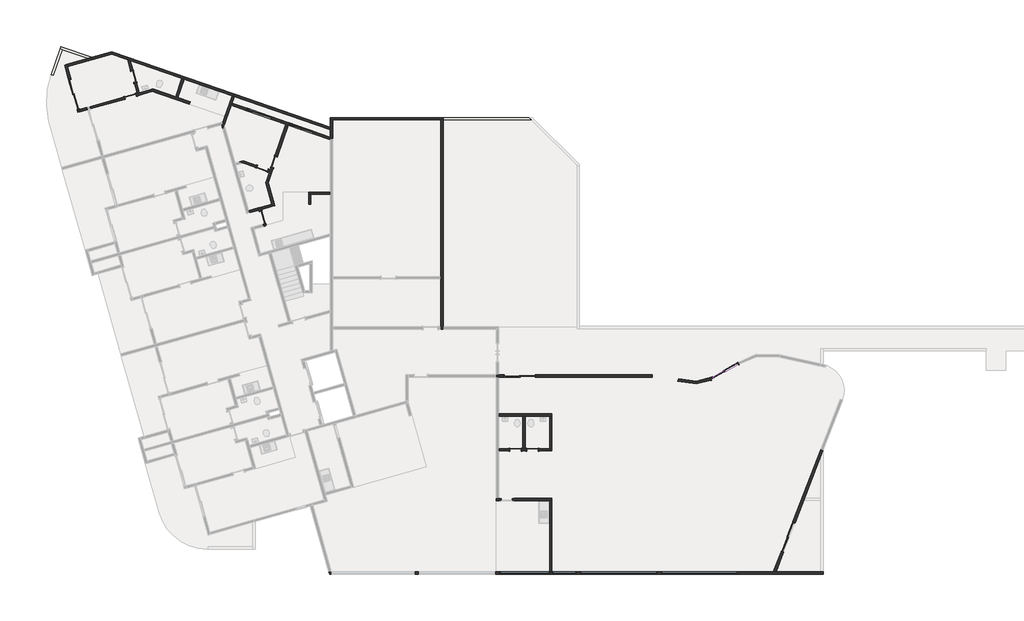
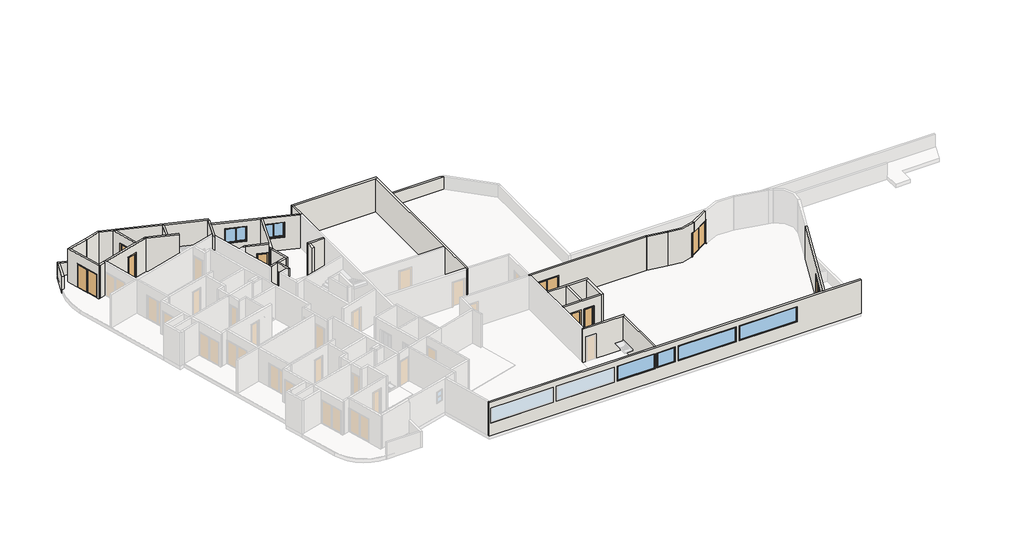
# One storey, part 3 of 7: 38 walls, 11 doors, 6 windows.
"""IFC4 building model written with IfcOpenShell, lengths in millimetres."""

from ifc_helpers import new_model, si_unit, point, frame, frame_2d, origin, place, context, project, spatial, polyline, circle_curve, trimmed, segment, composite_curve, outline, extrude, faceted_brep, transform, mapped, element, save
from ifc_brep_helpers import plane_surface, cylinder_surface, revolved_surface, advanced_brep
from components import p2_80cm_9d4be4ef, p3_70cm_ef4d15e3, p3_70cm_0a698c7c, p4_correr_200cm_eaaa0877, jx_160cm_e9e36a0c, m_fixo1_jf_1_50m_d319f19e, m_fixo1_jf_3_10m_b823a977, m_fixo1_jf_4_75m_a83b1cd6

model = new_model("IFC4")

# Units and contexts
model_context = context("Model", 3, world=origin())
ifc_project = project(units=[si_unit("LENGTHUNIT", "METRE", prefix="MILLI")], contexts=[model_context])

# Site, building, storey
site = spatial("IfcSite", under=ifc_project)
building = spatial("IfcBuilding", under=site)
storey = spatial("IfcBuildingStorey", under=building, Name="Térreo", Elevation=50750.0)

# Doors
placement = place(None, origin())
p2_80cm_shape = p2_80cm_9d4be4ef(model_context)
element("IfcDoor", 1, ObjectType="M_Folha única1 : P2 - 80CM", at=placement, inside=storey, context=model_context, shape_type="MappedRepresentation", body=[
    mapped(p2_80cm_shape, transform((-79349.4097406, 25479.1041247, 50750.0), x_axis=(-0.27176796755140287, 0.962362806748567, 0.0), y_axis=(-0.962362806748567, -0.27176796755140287, 0.0), z_axis=(0.0, 0.0, 1.0))),
])
p3_70cm_shape = p3_70cm_ef4d15e3(model_context)
element("IfcDoor", 2, ObjectType="M_Folha única1 : P3 - 70CM", at=placement, inside=storey, context=model_context, shape_type="MappedRepresentation", body=[
    mapped(p3_70cm_shape, transform((-87513.806232, 32980.5300491, 50750.0), x_axis=(0.9623628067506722, 0.2717679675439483, 0.0), y_axis=(-0.2717679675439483, 0.9623628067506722, 0.0), z_axis=(0.0, 0.0, 1.0))),
])
element("IfcDoor", 3, ObjectType="M_Folha única1 : P3 - 70CM", at=placement, inside=storey, context=model_context, shape_type="MappedRepresentation", body=[
    mapped(p3_70cm_shape, transform((-63680.7937868, 11116.8602024, 50750.0), x_axis=(1.0, 0.0, 0.0), y_axis=(0.0, 1.0, 0.0), z_axis=(0.0, 0.0, 1.0))),
])
p3_70cm_2_shape = p3_70cm_0a698c7c(model_context)
element("IfcDoor", 4, ObjectType="M_Folha única1 : P3 - 70CM", at=placement, inside=storey, context=model_context, shape_type="MappedRepresentation", body=[
    mapped(p3_70cm_2_shape, transform((-87314.304722, 34205.8663896, 50750.0), x_axis=(-0.2717679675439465, 0.9623628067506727, 0.0), y_axis=(-0.9623628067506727, -0.2717679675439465, 0.0), z_axis=(0.0, 0.0, 1.0))),
])
element("IfcDoor", 5, ObjectType="M_Folha única1 : P3 - 70CM", at=placement, inside=storey, context=model_context, shape_type="MappedRepresentation", body=[
    mapped(p3_70cm_2_shape, transform((-79346.1223746, 28509.6973665, 50750.0), x_axis=(0.9449109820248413, -0.32732741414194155, 0.0), y_axis=(0.32732741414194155, 0.9449109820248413, 0.0), z_axis=(0.0, 0.0, 1.0))),
])
element("IfcDoor", 6, ObjectType="M_Folha única1 : P3 - 70CM", at=placement, inside=storey, context=model_context, shape_type="MappedRepresentation", body=[
    mapped(p3_70cm_2_shape, transform((-78626.5662556, 28921.8732895, 50750.0), x_axis=(-0.32732741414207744, -0.9449109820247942, 0.0), y_axis=(0.9449109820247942, -0.32732741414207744, 0.0), z_axis=(0.0, 0.0, 1.0))),
])
element("IfcDoor", 7, ObjectType="M_Folha única1 : P3 - 70CM", at=placement, inside=storey, context=model_context, shape_type="MappedRepresentation", body=[
    mapped(p3_70cm_2_shape, transform((-62630.7937868, 11116.8602024, 50750.0), x_axis=(-1.0, 0.0, 0.0), y_axis=(0.0, -1.0, 0.0), z_axis=(0.0, 0.0, 1.0))),
])
p4_correr_200cm_shape = p4_correr_200cm_eaaa0877(model_context)
element("IfcDoor", 8, ObjectType="Porta de correr dupla envidraçada sem revestimento : P4 - CORRER - 200CM", at=placement, inside=storey, context=model_context, shape_type="MappedRepresentation", body=[
    mapped(p4_correr_200cm_shape, transform((-91005.8131296, 33111.4415743, 50750.0), x_axis=(0.2717679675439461, -0.9623628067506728, 0.0), y_axis=(0.9623628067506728, 0.2717679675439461, 0.0), z_axis=(0.0, 0.0, 1.0))),
])
element("IfcDoor", 9, ObjectType="Porta de correr dupla envidraçada sem revestimento : P4 - CORRER - 200CM", at=placement, inside=storey, context=model_context, shape_type="MappedRepresentation", body=[
    mapped(p4_correr_200cm_shape, transform((-46819.7901069, 5698.8329449, 50750.0), x_axis=(-0.36099437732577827, -0.9325679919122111, 0.0), y_axis=(0.9325679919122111, -0.36099437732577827, 0.0), z_axis=(0.0, 0.0, 1.0))),
])
element("IfcDoor", 10, ObjectType="Porta de correr dupla envidraçada sem revestimento : P4 - CORRER - 200CM", at=placement, inside=storey, context=model_context, shape_type="MappedRepresentation", body=[
    mapped(p4_correr_200cm_shape, transform((-63428.9279787, 15689.9578375, 50750.0), x_axis=(1.0, 0.0, 0.0), y_axis=(0.0, 1.0, 0.0), z_axis=(0.0, 0.0, 1.0))),
])
element("IfcDoor", 11, ObjectType="Porta de correr dupla envidraçada sem revestimento : P4 - CORRER - 200CM", at=placement, inside=storey, context=model_context, shape_type="MappedRepresentation", body=[
    mapped(p4_correr_200cm_shape, transform((-50763.8038479, 15957.0465895, 50750.0), x_axis=(-0.8701372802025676, -0.4928094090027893, 0.0), y_axis=(0.4928094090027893, -0.8701372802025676, 0.0), z_axis=(0.0, 0.0, 1.0))),
])

# Walls
element("IfcWall", 12, ObjectType="Básica .15 - Externa", at=placement, inside=storey, context=model_context, shape_type="Brep", body=[
    faceted_brep([(-88662.6343714, 35591.588263, 50750.0), (-87688.240739, 35254.0477389, 50750.0), (-87515.4733556, 35194.1992432, 50750.0), (-84326.6881589, 34089.5694606, 50750.0), (-84184.9515116, 34040.4703485, 50750.0), (-81226.8582774, 33015.7547641, 50750.0), (-81156.3583355, 32991.3328194, 50750.0), (-81156.3583355, 32991.3328194, 52050.0), (-81085.1216301, 32966.655652, 52050.0), (-81085.1216301, 32966.655652, 53350.0), (-81156.3583355, 32991.3328194, 53350.0), (-81156.3583355, 32991.3328194, 53650.0), (-81226.8582774, 33015.7547641, 53650.0), (-84184.9515116, 34040.4703485, 53650.0), (-84326.6881589, 34089.5694606, 53650.0), (-87515.4733556, 35194.1992432, 53650.0), (-87688.240739, 35254.0477389, 53650.0), (-88662.6343714, 35591.588263, 53650.0), (-88658.0562773, 35748.7474739, 50750.0), (-88658.0562773, 35748.7474739, 53650.0), (-81107.2592234, 33133.0694667, 53650.0), (-81107.2592234, 33133.0694667, 53350.0), (-81036.022518, 33108.3922993, 53350.0), (-81036.022518, 33108.3922993, 52050.0), (-81107.2592234, 33133.0694667, 52050.0), (-81107.2592234, 33133.0694667, 50750.0)], [[[0, 1, 2, 3, 4, 5, 6, 7, 8, 9, 10, 11, 12, 13, 14, 15, 16, 17]], [[18, 19, 20, 21, 22, 23, 24, 25]], [[6, 5, 4, 3, 2, 1, 0, 18, 25]], [[17, 16, 15, 14, 13, 12, 11, 20, 19]], [[0, 17, 19, 18]], [[7, 6, 25, 24]], [[23, 8, 7, 24]], [[11, 10, 21, 20]], [[21, 10, 9, 22]], [[9, 8, 23, 22]]]),
])
element("IfcWall", 13, ObjectType="Básica .15 -  Interna", at=placement, inside=storey, context=model_context, shape_type="Brep", body=[
    faceted_brep([(-81789.2550074, 30934.0017027, 50750.0), (-81703.3880158, 31181.8778654, 50750.0), (-81272.8781344, 32424.6503839, 50750.0), (-81223.7790223, 32566.3870312, 50750.0), (-81085.1216301, 32966.655652, 50750.0), (-81085.1216301, 32966.655652, 52050.0), (-81085.1216301, 32966.655652, 53350.0), (-81085.1216301, 32966.655652, 53650.0), (-81223.7790223, 32566.3870312, 53650.0), (-81272.8781344, 32424.6503839, 53650.0), (-81703.3880158, 31181.8778654, 53650.0), (-81789.2550074, 30934.0017027, 53650.0), (-81860.5472267, 31186.4559595, 50750.0), (-81860.5472267, 31186.4559595, 53650.0), (-81845.4155775, 31230.1371819, 53650.0), (-81785.5670817, 31402.9045654, 53650.0), (-81226.8582774, 33015.7547641, 53650.0), (-81226.8582774, 33015.7547641, 50750.0), (-81785.5670817, 31402.9045654, 50750.0), (-81845.4155775, 31230.1371819, 50750.0), (-81156.3583355, 32991.3328194, 50750.0), (-81156.3583355, 32991.3328194, 53650.0)], [[[0, 1, 2, 3, 4, 5, 6, 7, 8, 9, 10, 11]], [[12, 13, 14, 15, 16, 17, 18, 19]], [[4, 3, 2, 1, 0, 12, 19, 18, 17, 20]], [[11, 10, 9, 8, 7, 21, 16, 15, 14, 13]], [[0, 11, 13, 12]], [[4, 20, 17, 16, 21, 7, 6, 5]]]),
])
element("IfcWall", 14, ObjectType="Básica .15 -  Interna", at=placement, inside=storey, context=model_context, shape_type="Brep", body=[
    faceted_brep([(-91449.9950574, 34960.3135045, 53650.0), (-91409.2298622, 34815.9590835, 53650.0), (-90661.8679515, 32169.4613651, 53650.0), (-90621.1027564, 32025.1069441, 53650.0), (-90621.1027564, 32025.1069441, 50750.0), (-90661.8679515, 32169.4613651, 50750.0), (-90661.8679515, 32169.4613651, 52850.0), (-91205.4038866, 34094.1869786, 52850.0), (-91205.4038866, 34094.1869786, 50750.0), (-91409.2298622, 34815.9590835, 50750.0), (-91449.9950574, 34960.3135045, 50750.0), (-90765.4571774, 31984.341749, 53650.0), (-91594.3494784, 34919.5483093, 53650.0), (-91594.3494784, 34919.5483093, 50750.0), (-91349.7583076, 34053.4217835, 50750.0), (-91349.7583076, 34053.4217835, 52850.0), (-90806.2223725, 32128.69617, 52850.0), (-90806.2223725, 32128.69617, 50750.0), (-90765.4571774, 31984.341749, 50750.0)], [[[0, 1, 2, 3, 4, 5, 6, 7, 8, 9, 10]], [[11, 12, 13, 14, 15, 16, 17, 18]], [[4, 18, 17, 5]], [[13, 10, 9, 8, 14]], [[3, 2, 1, 0, 12, 11]], [[4, 3, 11, 18]], [[16, 6, 5, 17]], [[6, 16, 15, 7]], [[7, 15, 14, 8]], [[0, 10, 13, 12]]]),
])
element("IfcWall", 15, ObjectType="Básica .15 - Externa", at=placement, inside=storey, context=model_context, shape_type="Brep", body=[
    faceted_brep([(-91871.4376954, 35923.0920443, 50450.0), (-91729.7010481, 35873.9929322, 50450.0), (-90151.0501028, 35327.1311202, 50450.0), (-90151.0501028, 35327.1311202, 51850.0), (-91729.7010481, 35873.9929322, 51850.0), (-91871.4376954, 35923.0920443, 51850.0), (-91822.3385833, 36064.8286916, 50450.0), (-91822.3385833, 36064.8286916, 51850.0), (-89898.595846, 35398.4233395, 51850.0), (-89898.595846, 35398.4233395, 50450.0)], [[[0, 1, 2, 3, 4, 5]], [[6, 7, 8, 9]], [[2, 1, 0, 6, 9]], [[5, 4, 3, 8, 7]], [[0, 5, 7, 6]], [[3, 2, 9, 8]]]),
])
element("IfcWall", 16, ObjectType="Básica .15 - Externa", at=placement, inside=storey, context=model_context, shape_type="SweptSolid", body=[
    extrude(outline(polyline([(-91729.7010481, 35873.9929322), (-92280.2794148, 34284.6132387), (-92422.0160621, 34333.7123509), (-91871.4376954, 35923.0920443), (-91729.7010481, 35873.9929322)])), frame((0.0, 0.0, 50450.0), z_axis=(0.0, 0.0, 1.0), x_axis=(1.0, 0.0, 0.0)), (0.0, 0.0, 1.0), 1400.0),
])
element("IfcWall", 17, ObjectType="Básica .15 -  Interna", at=placement, inside=storey, context=model_context, shape_type="Brep", body=[
    faceted_brep([(-79598.23613, 26084.2573515, 50750.0), (-79557.4709349, 25939.9029305, 50750.0), (-79530.2941381, 25843.6666498, 50750.0), (-79530.2941381, 25843.6666498, 52850.0), (-79312.8797641, 25073.7764044, 52850.0), (-79312.8797641, 25073.7764044, 50750.0), (-79272.1145689, 24929.4219834, 50750.0), (-79272.1145689, 24929.4219834, 53650.0), (-79312.8797641, 25073.7764044, 53650.0), (-79557.4709349, 25939.9029305, 53650.0), (-79598.23613, 26084.2573515, 53650.0), (-79385.9397171, 25884.4318449, 52850.0), (-79385.9397171, 25884.4318449, 50750.0), (-79413.1165138, 25980.6681256, 50750.0), (-79453.881709, 26125.0225466, 50750.0), (-79453.881709, 26125.0225466, 53650.0), (-79413.1165138, 25980.6681256, 53650.0), (-79127.7601479, 24970.1871785, 53650.0), (-79127.7601479, 24970.1871785, 50750.0), (-79168.5253431, 25114.5415995, 50750.0), (-79168.5253431, 25114.5415995, 52850.0)], [[[0, 1, 2, 3, 4, 5, 6, 7, 8, 9, 10]], [[11, 12, 13, 14, 15, 16, 17, 18, 19, 20]], [[19, 18, 6, 5]], [[14, 13, 12, 2, 1, 0]], [[10, 9, 8, 7, 17, 16, 15]], [[7, 6, 18, 17]], [[0, 10, 15, 14]], [[3, 2, 12, 11]], [[4, 3, 11, 20]], [[5, 4, 20, 19]]]),
])
element("IfcWall", 18, ObjectType="Básica .15 - Externa", at=placement, inside=storey, context=model_context, shape_type="SweptSolid", body=[
    extrude(outline(polyline([(-89921.2674906, 35392.0209445), (-88658.0562773, 35748.7474739), (-88662.6343714, 35591.588263), (-89880.5022955, 35247.6665235), (-89921.2674906, 35392.0209445)])), frame((0.0, 0.0, 50750.0), z_axis=(0.0, 0.0, 1.0), x_axis=(1.0, 0.0, 0.0)), (0.0, 0.0, 1.0), 2900.0),
])
element("IfcWall", 19, ObjectType="Básica .15 -  Interna", at=placement, inside=storey, context=model_context, shape_type="Brep", body=[
    faceted_brep([(-90184.5077758, 32304.2662473, 50750.0), (-90661.8679515, 32169.4613651, 50750.0), (-90661.8679515, 32169.4613651, 52850.0), (-90661.8679515, 32169.4613651, 53650.0), (-90184.5077758, 32304.2662473, 53650.0), (-90143.7425806, 32159.9118263, 50750.0), (-90143.7425806, 32159.9118263, 52850.0), (-90143.7425806, 32159.9118263, 53650.0), (-90621.1027564, 32025.1069441, 53650.0), (-90621.1027564, 32025.1069441, 50750.0)], [[[0, 1, 2, 3, 4]], [[5, 6, 7, 8, 9]], [[1, 0, 5, 9]], [[4, 3, 8, 7]], [[0, 4, 7, 6, 5]], [[3, 2, 1, 9, 8]]]),
])
element("IfcWall", 20, ObjectType="Básica .15 -  Interna", at=placement, inside=storey, context=model_context, shape_type="SweptSolid", body=[
    extrude(outline(polyline([(-79557.4709349, 25939.9029305), (-80173.9123452, 25765.821983), (-80214.6775403, 25910.176404), (-79598.23613, 26084.2573515), (-79557.4709349, 25939.9029305)])), frame((0.0, 0.0, 50750.0), z_axis=(0.0, 0.0, 1.0), x_axis=(1.0, 0.0, 0.0)), (0.0, 0.0, 1.0), 2900.0),
])
element("IfcWall", 21, ObjectType="Básica .15 -  Interna", at=placement, inside=storey, context=model_context, shape_type="Brep", body=[
    faceted_brep([(-81272.8781344, 32424.6503839, 50750.0), (-77897.5766162, 31255.4093243, 50750.0), (-77755.8399689, 31206.3102121, 50750.0), (-75147.8282189, 30302.8666514, 50750.0), (-75147.8282189, 30302.8666514, 53650.0), (-77755.8399689, 31206.3102121, 53650.0), (-77897.5766162, 31255.4093243, 53650.0), (-81272.8781344, 32424.6503839, 53650.0), (-78829.2985897, 31578.1679228, 51850.0), (-80341.1561609, 32101.8917854, 51850.0), (-80341.1561609, 32101.8917854, 53150.0), (-78829.2985897, 31578.1679228, 53150.0), (-76243.9823976, 30682.5863495, 51850.0), (-77755.8399689, 31206.3102121, 51850.0), (-77755.8399689, 31206.3102121, 53150.0), (-76243.9823976, 30682.5863495, 53150.0), (-81223.7790223, 32566.3870312, 50750.0), (-81223.7790223, 32566.3870312, 53650.0), (-75147.8282189, 30461.6117638, 53650.0), (-75147.8282189, 30461.6117638, 50750.0), (-78780.1994776, 31719.9045701, 51850.0), (-78780.1994776, 31719.9045701, 53150.0), (-80292.0570488, 32243.6284327, 53150.0), (-80292.0570488, 32243.6284327, 51850.0), (-76194.8832855, 30824.3229968, 51850.0), (-76194.8832855, 30824.3229968, 53150.0), (-77706.7408568, 31348.0468595, 53150.0), (-77706.7408568, 31348.0468595, 51850.0), (-75147.8282189, 30356.258394, 50750.0), (-75147.8282189, 30356.258394, 53650.0)], [[[0, 1, 2, 3, 4, 5, 6, 7], [8, 9, 10, 11], [12, 13, 14, 15]], [[16, 17, 18, 19], [20, 21, 22, 23], [24, 25, 26, 27]], [[3, 2, 1, 0, 16, 19, 28]], [[7, 6, 5, 4, 29, 18, 17]], [[0, 7, 17, 16]], [[21, 20, 8, 11]], [[22, 21, 11, 10]], [[23, 22, 10, 9]], [[20, 23, 9, 8]], [[25, 24, 12, 15]], [[26, 25, 15, 14]], [[27, 26, 14, 13]], [[24, 27, 13, 12]], [[4, 3, 28, 19, 18, 29]]]),
])
element("IfcWall", 22, ObjectType="Básica .15 - Externa", at=placement, inside=storey, context=model_context, shape_type="Brep", body=[
    faceted_brep([(-81156.3583355, 32991.3328194, 52050.0), (-81156.3583355, 32991.3328194, 50750.0), (-81156.3583355, 32991.3328194, 50450.0), (-81085.1216301, 32966.655652, 50450.0), (-75147.8282189, 30909.9128092, 50450.0), (-75147.8282189, 30909.9128092, 52050.0), (-81085.1216301, 32966.655652, 52050.0), (-81107.2592234, 33133.0694667, 50450.0), (-81107.2592234, 33133.0694667, 50750.0), (-81107.2592234, 33133.0694667, 52050.0), (-81036.022518, 33108.3922993, 52050.0), (-75147.8282189, 31068.6579216, 52050.0), (-75147.8282189, 31068.6579216, 50450.0), (-81036.022518, 33108.3922993, 50450.0)], [[[0, 1, 2, 3, 4, 5, 6]], [[7, 8, 9, 10, 11, 12, 13]], [[4, 3, 2, 7, 13, 12]], [[0, 6, 5, 11, 10, 9]], [[0, 9, 8, 7, 2, 1]], [[5, 4, 12, 11]]]),
])
element("IfcWall", 23, ObjectType="Básica .15 -  Interna", at=placement, inside=storey, context=model_context, shape_type="SweptSolid", body=[
    extrude(outline(polyline([(-91449.9950574, 34960.3135045), (-89921.2674906, 35392.0209445), (-89880.5022955, 35247.6665235), (-91409.2298622, 34815.9590835), (-91449.9950574, 34960.3135045)])), frame((0.0, 0.0, 50750.0), z_axis=(0.0, 0.0, 1.0), x_axis=(1.0, 0.0, 0.0)), (0.0, 0.0, 1.0), 2900.0),
])
element("IfcWall", 24, ObjectType="Básica .15 -  Interna", at=placement, inside=storey, context=model_context, shape_type="Brep", body=[
    faceted_brep([(-83821.815623, 32644.7152387, 50750.0), (-84577.7444086, 32906.57717, 50750.0), (-84719.4810559, 32955.6762822, 50750.0), (-86137.8721095, 33447.0223292, 50750.0), (-86137.8721095, 33447.0223292, 53650.0), (-84719.4810559, 32955.6762822, 53650.0), (-84577.7444086, 32906.57717, 53650.0), (-83821.815623, 32644.7152387, 53650.0), (-83870.9147351, 32502.9785914, 50750.0), (-83870.9147351, 32502.9785914, 53650.0), (-86142.4502035, 33289.8631183, 53650.0), (-86390.3263662, 33375.7301099, 53650.0), (-86390.3263662, 33375.7301099, 50750.0), (-86142.4502035, 33289.8631183, 50750.0)], [[[0, 1, 2, 3, 4, 5, 6, 7]], [[8, 9, 10, 11, 12, 13]], [[3, 2, 1, 0, 8, 13, 12]], [[7, 6, 5, 4, 11, 10, 9]], [[0, 7, 9, 8]], [[4, 3, 12, 11]]]),
])
element("IfcWall", 25, ObjectType="Básica .15 -  Interna", at=placement, inside=storey, context=model_context, shape_type="Brep", body=[
    faceted_brep([(-86390.3263662, 33375.7301099, 50750.0), (-86956.7711455, 33215.7680402, 50750.0), (-87101.1255666, 33175.002845, 50750.0), (-87197.3618472, 33147.8260483, 50750.0), (-87197.3618472, 33147.8260483, 52850.0), (-87871.015812, 32957.588471, 52850.0), (-87871.015812, 32957.588471, 50750.0), (-90040.1533547, 32345.0314424, 50750.0), (-90040.1533547, 32345.0314424, 53650.0), (-87101.1255666, 33175.002845, 53650.0), (-86956.7711455, 33215.7680402, 53650.0), (-86390.3263662, 33375.7301099, 53650.0), (-87156.5966521, 33003.4716273, 52850.0), (-87156.5966521, 33003.4716273, 50750.0), (-86142.4502035, 33289.8631183, 50750.0), (-86142.4502035, 33289.8631183, 53650.0), (-89999.3881596, 32200.6770214, 53650.0), (-89999.3881596, 32200.6770214, 52850.0), (-89999.3881596, 32200.6770214, 50750.0), (-87830.2506168, 32813.23405, 50750.0), (-87830.2506168, 32813.23405, 52850.0)], [[[0, 1, 2, 3, 4, 5, 6, 7, 8, 9, 10, 11]], [[12, 13, 14, 15, 16, 17, 18, 19, 20]], [[19, 18, 7, 6]], [[14, 13, 3, 2, 1, 0]], [[11, 10, 9, 8, 16, 15]], [[4, 3, 13, 12]], [[5, 4, 12, 20]], [[6, 5, 20, 19]], [[0, 11, 15, 14]], [[8, 7, 18, 17, 16]]]),
])
element("IfcWall", 26, ObjectType="Básica .15 -  Interna", at=placement, inside=storey, context=model_context, shape_type="SweptSolid", body=[
    extrude(outline(polyline([(-84184.9515116, 34040.4703485), (-84577.7444086, 32906.57717), (-84719.4810559, 32955.6762822), (-84326.6881589, 34089.5694606), (-84184.9515116, 34040.4703485)])), frame((0.0, 0.0, 50750.0), z_axis=(0.0, 0.0, 1.0), x_axis=(1.0, 0.0, 0.0)), (0.0, 0.0, 1.0), 2900.0),
])
element("IfcWall", 27, ObjectType="Básica .15 -  Interna", at=placement, inside=storey, context=model_context, shape_type="Brep", body=[
    faceted_brep([(-87337.2463001, 34563.0759696, 52850.0), (-87337.2463001, 34563.0759696, 50750.0), (-87515.4733556, 35194.1992432, 50750.0), (-87515.4733556, 35194.1992432, 53650.0), (-86956.7711455, 33215.7680402, 53650.0), (-86956.7711455, 33215.7680402, 50750.0), (-87147.0087228, 33889.4220048, 50750.0), (-87147.0087228, 33889.4220048, 52850.0), (-87688.240739, 35254.0477389, 50750.0), (-87481.6007211, 34522.3107744, 50750.0), (-87481.6007211, 34522.3107744, 52850.0), (-87291.3631438, 33848.6568097, 52850.0), (-87291.3631438, 33848.6568097, 50750.0), (-87101.1255666, 33175.002845, 50750.0), (-87101.1255666, 33175.002845, 53650.0), (-87688.240739, 35254.0477389, 53650.0)], [[[0, 1, 2, 3, 4, 5, 6, 7]], [[8, 9, 10, 11, 12, 13, 14, 15]], [[6, 5, 13, 12]], [[2, 1, 9, 8]], [[4, 3, 15, 14]], [[10, 9, 1, 0]], [[11, 10, 0, 7]], [[12, 11, 7, 6]], [[5, 4, 14, 13]], [[3, 2, 8, 15]]]),
])
element("IfcWall", 28, ObjectType="Básica .15 -  Interna", at=placement, inside=storey, context=model_context, shape_type="Brep", body=[
    faceted_brep([(-76493.6479314, 26910.8243598, 50750.0), (-76343.6479314, 26910.8243598, 50750.0), (-75147.8282189, 26910.8243598, 50750.0), (-75147.8282189, 26910.8243598, 53650.0), (-76343.6479314, 26910.8243598, 53650.0), (-76493.6479314, 26910.8243598, 53650.0), (-76493.6479314, 27060.8243598, 50750.0), (-76493.6479314, 27060.8243598, 53650.0), (-75147.8282189, 27060.8243598, 53650.0), (-75147.8282189, 27060.8243598, 50750.0)], [[[0, 1, 2, 3, 4, 5]], [[6, 7, 8, 9]], [[2, 1, 0, 6, 9]], [[5, 4, 3, 8, 7]], [[0, 5, 7, 6]], [[3, 2, 9, 8]]]),
])
element("IfcWall", 29, ObjectType="Básica .15 -  Interna", at=placement, inside=storey, context=model_context, shape_type="SweptSolid", body=[
    extrude(outline(polyline([(-76343.6479314, 26910.8243598), (-76343.6479314, 26310.8243598), (-76493.6479314, 26310.8243598), (-76493.6479314, 26910.8243598), (-76343.6479314, 26910.8243598)])), frame((0.0, 0.0, 50750.0), z_axis=(0.0, 0.0, 1.0), x_axis=(1.0, 0.0, 0.0)), (0.0, 0.0, 1.0), 2900.0),
])
element("IfcWall", 30, ObjectType="Básica .15 -  Interna", at=placement, inside=storey, context=model_context, shape_type="Brep", body=[
    faceted_brep([(-78877.464657, 28426.7218055, 50750.0), (-78990.8539749, 28466.0010952, 50750.0), (-78990.8539749, 28466.0010952, 52850.0), (-79652.2916623, 28695.1302851, 52850.0), (-79652.2916623, 28695.1302851, 50750.0), (-80525.6718652, 28997.6786614, 50750.0), (-80525.6718652, 28997.6786614, 53650.0), (-78877.464657, 28426.7218055, 53650.0), (-79039.953087, 28324.2644479, 52850.0), (-79039.953087, 28324.2644479, 50750.0), (-78926.5637691, 28284.9851582, 50750.0), (-78926.5637691, 28284.9851582, 53650.0), (-80530.2499593, 28840.5194505, 53650.0), (-80778.126122, 28926.3864421, 53650.0), (-80778.126122, 28926.3864421, 50750.0), (-80530.2499593, 28840.5194505, 50750.0), (-79701.3907744, 28553.3936378, 50750.0), (-79701.3907744, 28553.3936378, 52850.0)], [[[0, 1, 2, 3, 4, 5, 6, 7]], [[8, 9, 10, 11, 12, 13, 14, 15, 16, 17]], [[10, 9, 1, 0]], [[16, 15, 14, 5, 4]], [[7, 6, 13, 12, 11]], [[2, 1, 9, 8]], [[3, 2, 8, 17]], [[4, 3, 17, 16]], [[6, 5, 14, 13]], [[0, 7, 11, 10]]]),
])
element("IfcWall", 31, ObjectType="Básica .15 -  Interna", at=placement, inside=storey, context=model_context, shape_type="Brep", body=[
    faceted_brep([(-79146.9727346, 27648.7205404, 50750.0), (-78771.1333302, 26317.8283554, 50750.0), (-78730.3681351, 26173.4739343, 50750.0), (-78730.3681351, 26173.4739343, 53650.0), (-78771.1333302, 26317.8283554, 53650.0), (-79146.9727346, 27648.7205404, 53650.0), (-79061.105743, 27896.5967032, 50750.0), (-79061.105743, 27896.5967032, 53650.0), (-78989.8135237, 27644.1424464, 53650.0), (-78586.013714, 26214.2391295, 53650.0), (-78586.013714, 26214.2391295, 50750.0), (-78989.8135237, 27644.1424464, 50750.0)], [[[0, 1, 2, 3, 4, 5]], [[6, 7, 8, 9, 10, 11]], [[2, 1, 0, 6, 11, 10]], [[5, 4, 3, 9, 8, 7]], [[0, 5, 7, 6]], [[3, 2, 10, 9]]]),
])
element("IfcWall", 32, ObjectType="Básica .15 -  Interna", at=placement, inside=storey, context=model_context, shape_type="Brep", body=[
    faceted_brep([(-78811.9991742, 28615.7040019, 52850.0), (-78811.9991742, 28615.7040019, 50750.0), (-78877.464657, 28426.7218055, 50750.0), (-78926.5637691, 28284.9851582, 50750.0), (-79061.105743, 27896.5967032, 50750.0), (-79061.105743, 27896.5967032, 53650.0), (-78926.5637691, 28284.9851582, 53650.0), (-78877.464657, 28426.7218055, 53650.0), (-77897.5766162, 31255.4093243, 53650.0), (-77897.5766162, 31255.4093243, 50750.0), (-78582.8699843, 29277.1416893, 50750.0), (-78582.8699843, 29277.1416893, 52850.0), (-78989.8135237, 27644.1424464, 50750.0), (-78670.2625269, 28566.6048898, 50750.0), (-78670.2625269, 28566.6048898, 52850.0), (-78441.133337, 29228.0425772, 52850.0), (-78441.133337, 29228.0425772, 50750.0), (-77755.8399689, 31206.3102121, 50750.0), (-77755.8399689, 31206.3102121, 51850.0), (-77755.8399689, 31206.3102121, 53150.0), (-77755.8399689, 31206.3102121, 53650.0), (-78989.8135237, 27644.1424464, 53650.0)], [[[0, 1, 2, 3, 4, 5, 6, 7, 8, 9, 10, 11]], [[12, 13, 14, 15, 16, 17, 18, 19, 20, 21]], [[10, 9, 17, 16]], [[4, 3, 2, 1, 13, 12]], [[8, 7, 6, 5, 21, 20]], [[14, 13, 1, 0]], [[15, 14, 0, 11]], [[16, 15, 11, 10]], [[5, 4, 12, 21]], [[9, 8, 20, 19, 18, 17]]]),
])
element("IfcWall", 33, ObjectType="Básica .15 -  Interna", at=placement, inside=storey, context=model_context, shape_type="SweptSolid", body=[
    extrude(outline(polyline([(-78730.3681351, 26173.4739343), (-79413.1165138, 25980.6681256), (-79453.881709, 26125.0225466), (-78771.1333302, 26317.8283554), (-78730.3681351, 26173.4739343)])), frame((0.0, 0.0, 50750.0), z_axis=(0.0, 0.0, 1.0), x_axis=(1.0, 0.0, 0.0)), (0.0, 0.0, 1.0), 2900.0),
])
element("IfcWall", 34, ObjectType="Básica .15 - Externa", at=placement, inside=storey, context=model_context, shape_type="Brep", body=[
    faceted_brep([(-75195.6613336, 3411.0495751, 50750.0), (-44655.8696428, 3411.0495751, 50750.0), (-44655.8696428, 3411.0495751, 53650.0), (-75195.6613336, 3411.0495751, 53650.0), (-69925.8696428, 3411.0495751, 51850.0), (-75075.8696428, 3411.0495751, 51850.0), (-75075.8696428, 3411.0495751, 53150.0), (-69925.8696428, 3411.0495751, 53150.0), (-64925.8696428, 3411.0495751, 51850.0), (-69675.8696428, 3411.0495751, 51850.0), (-69675.8696428, 3411.0495751, 53150.0), (-64925.8696428, 3411.0495751, 53150.0), (-54925.8696428, 3411.0495751, 51850.0), (-59675.8696428, 3411.0495751, 51850.0), (-59675.8696428, 3411.0495751, 53150.0), (-54925.8696428, 3411.0495751, 53150.0), (-49925.8696428, 3411.0495751, 51850.0), (-54675.8696428, 3411.0495751, 51850.0), (-54675.8696428, 3411.0495751, 53150.0), (-49925.8696428, 3411.0495751, 53150.0), (-61575.8696428, 3411.0495751, 51850.0), (-64675.8696428, 3411.0495751, 51850.0), (-64675.8696428, 3411.0495751, 53150.0), (-61575.8696428, 3411.0495751, 53150.0), (-59925.8696428, 3411.0495751, 51850.0), (-61425.8696428, 3411.0495751, 51850.0), (-61425.8696428, 3411.0495751, 53150.0), (-59925.8696428, 3411.0495751, 53150.0), (-75238.0208209, 3561.0495751, 50750.0), (-75238.0208209, 3561.0495751, 53650.0), (-75082.1544481, 3561.0495751, 53650.0), (-61580.7937868, 3561.0495751, 53650.0), (-61430.7937868, 3561.0495751, 53650.0), (-47727.7429681, 3561.0495751, 53650.0), (-47566.8967871, 3561.0495751, 53650.0), (-44655.8696428, 3561.0495751, 53650.0), (-44655.8696428, 3561.0495751, 51750.0), (-44655.8696428, 3561.0495751, 50750.0), (-44805.8696428, 3561.0495751, 50750.0), (-47566.8967871, 3561.0495751, 50750.0), (-47727.7429681, 3561.0495751, 50750.0), (-61430.7937868, 3561.0495751, 50750.0), (-61580.7937868, 3561.0495751, 50750.0), (-75082.1544481, 3561.0495751, 50750.0), (-69925.8696428, 3561.0495751, 51850.0), (-69925.8696428, 3561.0495751, 53150.0), (-75075.8696428, 3561.0495751, 53150.0), (-75075.8696428, 3561.0495751, 51850.0), (-64925.8696428, 3561.0495751, 51850.0), (-64925.8696428, 3561.0495751, 53150.0), (-69675.8696428, 3561.0495751, 53150.0), (-69675.8696428, 3561.0495751, 51850.0), (-54925.8696428, 3561.0495751, 51850.0), (-54925.8696428, 3561.0495751, 53150.0), (-59675.8696428, 3561.0495751, 53150.0), (-59675.8696428, 3561.0495751, 51850.0), (-49925.8696428, 3561.0495751, 51850.0), (-49925.8696428, 3561.0495751, 53150.0), (-54675.8696428, 3561.0495751, 53150.0), (-54675.8696428, 3561.0495751, 51850.0), (-61575.8696428, 3561.0495751, 51850.0), (-61575.8696428, 3561.0495751, 53150.0), (-64675.8696428, 3561.0495751, 53150.0), (-64675.8696428, 3561.0495751, 51850.0), (-59925.8696428, 3561.0495751, 51850.0), (-59925.8696428, 3561.0495751, 53150.0), (-61425.8696428, 3561.0495751, 53150.0), (-61425.8696428, 3561.0495751, 51850.0)], [[[0, 1, 2, 3], [4, 5, 6, 7], [8, 9, 10, 11], [12, 13, 14, 15], [16, 17, 18, 19], [20, 21, 22, 23], [24, 25, 26, 27]], [[28, 29, 30, 31, 32, 33, 34, 35, 36, 37, 38, 39, 40, 41, 42, 43], [44, 45, 46, 47], [48, 49, 50, 51], [52, 53, 54, 55], [56, 57, 58, 59], [60, 61, 62, 63], [64, 65, 66, 67]], [[1, 0, 28, 43, 42, 41, 40, 39, 38, 37]], [[3, 2, 35, 34, 33, 32, 31, 30, 29]], [[0, 3, 29, 28]], [[2, 1, 37, 36, 35]], [[45, 44, 4, 7]], [[46, 45, 7, 6]], [[47, 46, 6, 5]], [[44, 47, 5, 4]], [[49, 48, 8, 11]], [[50, 49, 11, 10]], [[51, 50, 10, 9]], [[48, 51, 9, 8]], [[53, 52, 12, 15]], [[54, 53, 15, 14]], [[55, 54, 14, 13]], [[52, 55, 13, 12]], [[57, 56, 16, 19]], [[58, 57, 19, 18]], [[59, 58, 18, 17]], [[56, 59, 17, 16]], [[61, 60, 20, 23]], [[62, 61, 23, 22]], [[63, 62, 22, 21]], [[60, 63, 21, 20]], [[65, 64, 24, 27]], [[66, 65, 27, 26]], [[67, 66, 26, 25]], [[64, 67, 25, 24]]]),
])
element("IfcWall", 35, ObjectType="Básica .15 -  Interna", at=placement, inside=storey, context=model_context, shape_type="Brep", body=[
    faceted_brep([(-64878.9279787, 15764.9578375, 53650.0), (-64728.9279787, 15764.9578375, 53650.0), (-55226.4619024, 15764.9578375, 53650.0), (-55226.4619024, 15764.9578375, 50750.0), (-62428.9279787, 15764.9578375, 50750.0), (-62428.9279787, 15764.9578375, 52850.0), (-64428.9279787, 15764.9578375, 52850.0), (-64428.9279787, 15764.9578375, 50750.0), (-64728.9279787, 15764.9578375, 50750.0), (-64878.9279787, 15764.9578375, 50750.0), (-55225.1086809, 15614.9578375, 53650.0), (-64730.7937868, 15614.9578375, 53650.0), (-64878.9279787, 15614.9578375, 53650.0), (-64878.9279787, 15614.9578375, 50750.0), (-64730.7937868, 15614.9578375, 50750.0), (-64428.9279787, 15614.9578375, 50750.0), (-64428.9279787, 15614.9578375, 52850.0), (-62428.9279787, 15614.9578375, 52850.0), (-62428.9279787, 15614.9578375, 50750.0), (-55225.1086809, 15614.9578375, 50750.0)], [[[0, 1, 2, 3, 4, 5, 6, 7, 8, 9]], [[10, 11, 12, 13, 14, 15, 16, 17, 18, 19]], [[3, 19, 18, 4]], [[13, 9, 8, 7, 15, 14]], [[2, 1, 0, 12, 11, 10]], [[3, 2, 10, 19]], [[17, 5, 4, 18]], [[5, 17, 16, 6]], [[6, 16, 15, 7]], [[0, 9, 13, 12]]]),
])
element("IfcWall", 36, ObjectType="Básica .15 -  Interna", at=placement, inside=storey, context=model_context, shape_type="Brep", body=[
    faceted_brep([(-64730.7937868, 13191.8602024, 50750.0), (-63230.7937868, 13191.8602024, 50750.0), (-63080.7937868, 13191.8602024, 50750.0), (-61580.7937868, 13191.8602024, 50750.0), (-61430.7937868, 13191.8602024, 50750.0), (-61430.7937868, 13191.8602024, 53650.0), (-61580.7937868, 13191.8602024, 53650.0), (-63080.7937868, 13191.8602024, 53650.0), (-63230.7937868, 13191.8602024, 53650.0), (-64730.7937868, 13191.8602024, 53650.0), (-64730.7937868, 13341.8602024, 50750.0), (-64730.7937868, 13341.8602024, 53650.0), (-61430.7937868, 13341.8602024, 53650.0), (-61430.7937868, 13341.8602024, 50750.0)], [[[0, 1, 2, 3, 4, 5, 6, 7, 8, 9]], [[10, 11, 12, 13]], [[4, 3, 2, 1, 0, 10, 13]], [[9, 8, 7, 6, 5, 12, 11]], [[5, 4, 13, 12]], [[0, 9, 11, 10]]]),
])
element("IfcWall", 37, ObjectType="Básica .15 -  Interna", at=placement, inside=storey, context=model_context, shape_type="Brep", body=[
    faceted_brep([(-61580.7937868, 13191.8602024, 50750.0), (-61580.7937868, 11191.8602024, 50750.0), (-61580.7937868, 11041.8602024, 50750.0), (-61580.7937868, 11041.8602024, 53650.0), (-61580.7937868, 11191.8602024, 53650.0), (-61580.7937868, 13191.8602024, 53650.0), (-61430.7937868, 13191.8602024, 50750.0), (-61430.7937868, 13191.8602024, 53650.0), (-61430.7937868, 11041.8602024, 53650.0), (-61430.7937868, 11041.8602024, 50750.0)], [[[0, 1, 2, 3, 4, 5]], [[6, 7, 8, 9]], [[2, 1, 0, 6, 9]], [[5, 4, 3, 8, 7]], [[0, 5, 7, 6]], [[3, 2, 9, 8]]]),
])
element("IfcWall", 38, ObjectType="Básica .15 -  Interna", at=placement, inside=storey, context=model_context, shape_type="Brep", body=[
    faceted_brep([(-62980.7937868, 11191.8602024, 52850.0), (-62980.7937868, 11191.8602024, 50750.0), (-63080.7937868, 11191.8602024, 50750.0), (-63230.7937868, 11191.8602024, 50750.0), (-63330.7937868, 11191.8602024, 50750.0), (-63330.7937868, 11191.8602024, 52850.0), (-64030.7937868, 11191.8602024, 52850.0), (-64030.7937868, 11191.8602024, 50750.0), (-64730.7937868, 11191.8602024, 50750.0), (-64730.7937868, 11191.8602024, 53650.0), (-63230.7937868, 11191.8602024, 53650.0), (-63080.7937868, 11191.8602024, 53650.0), (-61580.7937868, 11191.8602024, 53650.0), (-61580.7937868, 11191.8602024, 50750.0), (-62280.7937868, 11191.8602024, 50750.0), (-62280.7937868, 11191.8602024, 52850.0), (-63330.7937868, 11041.8602024, 50750.0), (-62980.7937868, 11041.8602024, 50750.0), (-62980.7937868, 11041.8602024, 52850.0), (-62280.7937868, 11041.8602024, 52850.0), (-62280.7937868, 11041.8602024, 50750.0), (-61580.7937868, 11041.8602024, 50750.0), (-61580.7937868, 11041.8602024, 53650.0), (-64730.7937868, 11041.8602024, 53650.0), (-64730.7937868, 11041.8602024, 50750.0), (-64030.7937868, 11041.8602024, 50750.0), (-64030.7937868, 11041.8602024, 52850.0), (-63330.7937868, 11041.8602024, 52850.0)], [[[0, 1, 2, 3, 4, 5, 6, 7, 8, 9, 10, 11, 12, 13, 14, 15]], [[16, 17, 18, 19, 20, 21, 22, 23, 24, 25, 26, 27]], [[25, 24, 8, 7]], [[14, 13, 21, 20]], [[4, 3, 2, 1, 17, 16]], [[12, 11, 10, 9, 23, 22]], [[9, 8, 24, 23]], [[13, 12, 22, 21]], [[5, 4, 16, 27]], [[6, 5, 27, 26]], [[7, 6, 26, 25]], [[18, 17, 1, 0]], [[19, 18, 0, 15]], [[20, 19, 15, 14]]]),
])
element("IfcWall", 39, ObjectType="Básica .15 - Externa", at=placement, inside=storey, context=model_context, shape_type="Brep", body=[
    faceted_brep([(-75147.8282189, 31523.8506069, 50750.0), (-74997.8282189, 31523.8506069, 50750.0), (-68298.5796889, 31523.8506069, 50750.0), (-68223.5796889, 31523.8506069, 50750.0), (-68223.5796889, 31523.8506069, 51850.0), (-68148.5796889, 31523.8506069, 51850.0), (-68148.5796889, 31523.8506069, 53650.0), (-68298.5796889, 31523.8506069, 53650.0), (-74997.8282189, 31523.8506069, 53650.0), (-75147.8282189, 31523.8506069, 53650.0), (-75147.8282189, 31673.8506069, 50750.0), (-75147.8282189, 31673.8506069, 53650.0), (-68148.5796889, 31673.8506069, 53650.0), (-68148.5796889, 31673.8506069, 51850.0), (-68223.5796889, 31673.8506069, 51850.0), (-68223.5796889, 31673.8506069, 50750.0)], [[[0, 1, 2, 3, 4, 5, 6, 7, 8, 9]], [[10, 11, 12, 13, 14, 15]], [[3, 2, 1, 0, 10, 15]], [[9, 8, 7, 6, 12, 11]], [[4, 3, 15, 14]], [[13, 5, 4, 14]], [[6, 5, 13, 12]], [[0, 9, 11, 10]]]),
])
element("IfcWall", 40, ObjectType="Básica .15 -  Interna", at=placement, inside=storey, context=model_context, shape_type="Brep", body=[
    faceted_brep([(-68298.5796889, 31523.8506069, 53650.0), (-68298.5796889, 31523.8506069, 50750.0), (-68298.5796889, 21833.3512282, 50750.0), (-68298.5796889, 21683.3512282, 50750.0), (-68298.5796889, 18726.6215174, 50750.0), (-68298.5796889, 18576.6215174, 50750.0), (-68298.5796889, 18576.6215174, 53650.0), (-68298.5796889, 18726.6215174, 53650.0), (-68298.5796889, 21683.3512282, 53650.0), (-68298.5796889, 21833.3512282, 53650.0), (-68148.5796889, 31523.8506069, 50750.0), (-68148.5796889, 31523.8506069, 51850.0), (-68148.5796889, 31523.8506069, 53650.0), (-68148.5796889, 18726.6215174, 53650.0), (-68148.5796889, 18576.6215174, 53650.0), (-68148.5796889, 18576.6215174, 50750.0), (-68148.5796889, 18726.6215174, 50750.0), (-68223.5796889, 31523.8506069, 50750.0)], [[[0, 1, 2, 3, 4, 5, 6, 7, 8, 9]], [[10, 11, 12, 13, 14, 15, 16]], [[5, 4, 3, 2, 1, 17, 10, 16, 15]], [[0, 9, 8, 7, 6, 14, 13, 12]], [[6, 5, 15, 14]], [[0, 12, 11, 10, 17, 1]]]),
])
element("IfcWall", 41, ObjectType="Básica .15 -  Interna", at=placement, inside=storey, context=model_context, shape_type="Brep", body=[
    faceted_brep([(-64880.7937868, 7953.4535975, 50750.0), (-64575.8696428, 7953.4535975, 50750.0), (-64575.8696428, 7953.4535975, 52850.0), (-63875.8696428, 7953.4535975, 52850.0), (-63875.8696428, 7953.4535975, 50750.0), (-61580.7937868, 7953.4535975, 50750.0), (-61430.7937868, 7953.4535975, 50750.0), (-61430.7937868, 7953.4535975, 53650.0), (-61580.7937868, 7953.4535975, 53650.0), (-64880.7937868, 7953.4535975, 53650.0), (-64575.8696428, 8103.4535975, 52850.0), (-64575.8696428, 8103.4535975, 50750.0), (-64730.7937868, 8103.4535975, 50750.0), (-64880.7937868, 8103.4535975, 50750.0), (-64880.7937868, 8103.4535975, 53650.0), (-64730.7937868, 8103.4535975, 53650.0), (-61430.7937868, 8103.4535975, 53650.0), (-61430.7937868, 8103.4535975, 50750.0), (-63875.8696428, 8103.4535975, 50750.0), (-63875.8696428, 8103.4535975, 52850.0)], [[[0, 1, 2, 3, 4, 5, 6, 7, 8, 9]], [[10, 11, 12, 13, 14, 15, 16, 17, 18, 19]], [[18, 17, 6, 5, 4]], [[13, 12, 11, 1, 0]], [[9, 8, 7, 16, 15, 14]], [[7, 6, 17, 16]], [[2, 1, 11, 10]], [[3, 2, 10, 19]], [[4, 3, 19, 18]], [[0, 9, 14, 13]]]),
])
element("IfcWall", 42, ObjectType="Básica .15 -  Interna", at=placement, inside=storey, context=model_context, shape_type="SweptSolid", body=[
    extrude(outline(polyline([(-61580.7937868, 3561.0495751), (-61580.7937868, 7953.4535975), (-61430.7937868, 7953.4535975), (-61430.7937868, 3561.0495751), (-61580.7937868, 3561.0495751)])), frame((0.0, 0.0, 50750.0), z_axis=(0.0, 0.0, 1.0), x_axis=(1.0, 0.0, 0.0)), (0.0, 0.0, 1.0), 2900.0),
])
element("IfcWall", 43, ObjectType="Básica .15 -  Interna", at=placement, inside=storey, context=model_context, shape_type="AdvancedBrep", body=[
    advanced_brep(
    [(-53641.9009079, 15356.7192963, 53650.0), (-51399.9687895, 15510.556044, 53650.0), (-51472.2431167, 15642.0094757, 53650.0), (-53590.8010441, 15497.7497945, 53650.0), (-53590.8010441, 15497.7497945, 50750.0), (-51472.2431167, 15642.0094757, 50750.0), (-51670.9018338, 15529.4974765, 50750.0), (-51604.3833544, 15412.0479967, 50750.0), (-53641.9009079, 15356.7192963, 50750.0), (-51604.3833544, 15412.0479967, 52850.0), (-51399.9687895, 15510.556044, 52850.0), (-51472.2431167, 15642.0094757, 52850.0), (-51670.9018338, 15529.4974765, 52850.0)],
    [
        (0, 1, circle_curve(frame((-52692.2932246, 17930.9203573, 53650.0), z_axis=(0.0, 0.0, 1.0), x_axis=(1.0, 0.0, 0.0)), 2743.7685497)),
        (1, 2),
        (2, 3, circle_curve(frame((-52692.2932246, 17930.9203573, 53650.0), z_axis=(0.0, 0.0, -1.0), x_axis=(1.0, 0.0, 0.0)), 2593.7685497)),
        (3, 0),
        (4, 5, circle_curve(frame((-52692.2932246, 17930.9203573, 50750.0), z_axis=(0.0, 0.0, 1.0), x_axis=(1.0, 0.0, 0.0)), 2593.7685497)),
        (5, 6),
        (6, 7),
        (7, 8, circle_curve(frame((-52692.2932246, 17930.9203573, 50750.0), z_axis=(0.0, 0.0, -1.0), x_axis=(1.0, 0.0, 0.0)), 2743.7685497)),
        (8, 4),
        (0, 8),
        (7, 9),
        (9, 10, circle_curve(frame((-52692.2932246, 17930.9203573, 52850.0), z_axis=(0.0, 0.0, 1.0), x_axis=(1.0, 0.0, 0.0)), 2743.7685497)),
        (10, 1),
        (2, 11),
        (11, 5),
        (4, 3),
        (10, 11),
        (12, 6),
        (11, 12),
        (12, 9),
    ],
    [
        plane_surface(frame((-49948.5246749, 17930.9203573, 53650.0), z_axis=(0.0, 0.0, 1.0), x_axis=(0.0, 1.0, 0.0))),
        plane_surface(frame((-49948.5246749, 17930.9203573, 50750.0), z_axis=(0.0, 0.0, -1.0), x_axis=(0.0, -1.0, 0.0))),
        cylinder_surface(frame((-52692.2932246, 17930.9203573, 50750.0), z_axis=(0.0, 0.0, 1.0), x_axis=(1.0, 0.0, 0.0)), 2743.7685497),
        revolved_surface(polyline([(-50098.5246749, 17930.9203573, 50750.0), (-50098.5246749, 17930.9203573, 53650.0)]), (-52692.2932246, 17930.9203573, 50750.0), (0.0, 0.0, -1.0)),
        plane_surface(frame((-53590.8010441, 15497.7497945, 50750.0), z_axis=(-0.9401866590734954, 0.34065972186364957, 0.0), x_axis=(-0.34065972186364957, -0.9401866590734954, 0.0))),
        plane_surface(frame((-51399.9687895, 15510.556044, 50750.0), z_axis=(0.8762864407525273, 0.4817904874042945, 0.0), x_axis=(-0.4817904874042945, 0.8762864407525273, 0.0))),
        plane_surface(frame((-51670.9018338, 15529.4974765, 50750.0), z_axis=(0.4928094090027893, -0.8701372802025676, 0.0), x_axis=(0.0, 0.0, 1.0))),
        plane_surface(frame((-51670.9018338, 15529.4974765, 50750.0), z_axis=(0.8701372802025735, 0.49280940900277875, 0.0), x_axis=(0.49280940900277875, -0.8701372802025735, 0.0))),
        plane_surface(frame((-51670.9018338, 15529.4974765, 52850.0), z_axis=(0.0, 0.0, -1.0), x_axis=(0.49280940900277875, -0.8701372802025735, 0.0))),
    ],
    [
        (0, [[1, 2, 3, 4]]),
        (1, [[5, 6, 7, 8, 9]]),
        (2, [[-1, 10, -8, 11, 12, 13]]),
        (3, [[-3, 14, 15, -5, 16]]),
        (4, [[-4, -16, -9, -10]]),
        (5, [[-2, -13, 17, -14]]),
        (6, [[18, -6, -15, 19]]),
        (7, [[-18, 20, -11, -7]]),
        (8, [[-19, -17, -12, -20]]),
    ],
),
])
element("IfcWall", 44, ObjectType="Básica .15 -  Interna", at=placement, inside=storey, context=model_context, shape_type="SweptSolid", body=[
    extrude(outline(composite_curve([segment(polyline([(-55225.1086809, 15614.9578375), (-55226.4619024, 15764.9578375)]), True, "CONTINUOUS"), segment(trimmed(circle_curve(frame_2d((-55143.5569427, 11132.653812)), 4633.0458466), [point((-55226.4619024, 15764.9578375))], [point((-53590.8010441, 15497.7497945))], False, "CARTESIAN"), True, "CONTINUOUS"), segment(polyline([(-53590.8010441, 15497.7497945), (-53641.9009079, 15356.7192963)]), True, "CONTINUOUS"), segment(trimmed(circle_curve(frame_2d((-55143.5569427, 11132.653812)), 4483.0458466), [point((-53641.9009079, 15356.7192963))], [point((-55225.1086809, 15614.9578375))], True, "CARTESIAN"), True, "CONTINUOUS")], self_intersect=False)), frame((0.0, 0.0, 50750.0), z_axis=(0.0, 0.0, 1.0), x_axis=(1.0, 0.0, 0.0)), (0.0, 0.0, 1.0), 2900.0),
])
element("IfcWall", 45, ObjectType="Básica .15 -  Interna", at=placement, inside=storey, context=model_context, shape_type="SweptSolid", body=[
    extrude(outline(polyline([(-63230.7937868, 11191.8602024), (-63230.7937868, 13191.8602024), (-63080.7937868, 13191.8602024), (-63080.7937868, 11191.8602024), (-63230.7937868, 11191.8602024)])), frame((0.0, 0.0, 50750.0), z_axis=(0.0, 0.0, 1.0), x_axis=(1.0, 0.0, 0.0)), (0.0, 0.0, 1.0), 2900.0),
])
element("IfcWall", 46, ObjectType="Básica .15 - Externa", at=placement, inside=storey, context=model_context, shape_type="Brep", body=[
    faceted_brep([(-68223.5796889, 31523.8506069, 50750.0), (-68148.5796889, 31523.8506069, 50750.0), (-62701.4234226, 31523.8506069, 50750.0), (-62701.4234226, 31523.8506069, 51850.0), (-68148.5796889, 31523.8506069, 51850.0), (-68223.5796889, 31523.8506069, 51850.0), (-68223.5796889, 31673.8506069, 50750.0), (-68223.5796889, 31673.8506069, 51850.0), (-68148.5796889, 31673.8506069, 51850.0), (-62852.9385742, 31673.8506069, 51850.0), (-62852.9385742, 31673.8506069, 50750.0)], [[[0, 1, 2, 3, 4, 5]], [[6, 7, 8, 9, 10]], [[2, 1, 0, 6, 10]], [[5, 4, 3, 9, 8, 7]], [[0, 5, 7, 6]], [[3, 2, 10, 9]]]),
])
element("IfcWall", 47, ObjectType="Básica .15 -  Interna", at=placement, inside=storey, context=model_context, shape_type="SweptSolid", body=[
    extrude(outline(polyline([(-51472.2431167, 15642.0094757), (-50090.3617805, 16424.6493419), (-50006.7852254, 16299.59702), (-51399.9687895, 15510.556044), (-51472.2431167, 15642.0094757)])), frame((0.0, 0.0, 52850.0), z_axis=(0.0, 0.0, 1.0), x_axis=(1.0, 0.0, 0.0)), (0.0, 0.0, 1.0), 800.0),
])
element("IfcWall", 48, ObjectType="Básica .15 - Externa", at=placement, inside=storey, context=model_context, shape_type="Brep", body=[
    faceted_brep([(-74997.8282189, 30356.258394, 50750.0), (-74997.8282189, 31523.8506069, 50750.0), (-74997.8282189, 31523.8506069, 53650.0), (-74997.8282189, 30356.258394, 53650.0), (-75147.8282189, 30356.258394, 50750.0), (-75147.8282189, 30356.258394, 53650.0), (-75147.8282189, 30461.6117638, 53650.0), (-75147.8282189, 31523.8506069, 53650.0), (-75147.8282189, 31523.8506069, 50750.0), (-75147.8282189, 30461.6117638, 50750.0)], [[[0, 1, 2, 3]], [[4, 5, 6, 7, 8, 9]], [[1, 0, 4, 9, 8]], [[3, 2, 7, 6, 5]], [[0, 3, 5, 4]], [[2, 1, 8, 7]]]),
])
element("IfcWall", 49, ObjectType="Básica .15 -  Interna", at=placement, inside=storey, context=model_context, shape_type="Brep", body=[
    faceted_brep([(-47727.7429681, 3561.0495751, 53650.0), (-44800.8122421, 11122.2806661, 53650.0), (-44800.8122421, 11122.2806661, 50750.0), (-46528.738329, 6658.4755152, 50750.0), (-46528.738329, 6658.4755152, 52850.0), (-47250.7270836, 4793.3395313, 52850.0), (-47250.7270836, 4793.3395313, 50750.0), (-47727.7429681, 3561.0495751, 50750.0), (-44660.9270434, 11068.1315095, 53650.0), (-47566.8967871, 3561.0495751, 53650.0), (-47566.8967871, 3561.0495751, 50750.0), (-47110.8418849, 4739.1903747, 50750.0), (-47110.8418849, 4739.1903747, 52850.0), (-46388.8531302, 6604.3263586, 52850.0), (-46388.8531302, 6604.3263586, 50750.0), (-45857.0614022, 7978.1204536, 50750.0), (-45798.9968352, 8128.1204536, 50750.0), (-44805.8696428, 10693.6967888, 50750.0), (-44660.9270434, 11068.1315095, 50750.0)], [[[0, 1, 2, 3, 4, 5, 6, 7]], [[8, 9, 10, 11, 12, 13, 14, 15, 16, 17, 18]], [[2, 18, 17, 16, 15, 14, 3]], [[10, 7, 6, 11]], [[1, 0, 9, 8]], [[0, 7, 10, 9]], [[1, 8, 18, 2]], [[5, 12, 11, 6]], [[12, 5, 4, 13]], [[13, 4, 3, 14]]]),
])

# Windows
jx_160cm_shape = jx_160cm_e9e36a0c(model_context)
element("IfcWindow", 50, ObjectType="Janela de correr - 2 Painéis : JX - 160CM", at=placement, inside=storey, context=model_context, shape_type="MappedRepresentation", body=[
    mapped(jx_160cm_shape, transform((-79560.6778192, 31910.8981777, 51200.0), x_axis=(-0.9449109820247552, 0.3273274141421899, 0.0), y_axis=(-0.3273274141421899, -0.9449109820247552, 0.0), z_axis=(0.0, 0.0, 1.0))),
])
element("IfcWindow", 51, ObjectType="Janela de correr - 2 Painéis : JX - 160CM", at=placement, inside=storey, context=model_context, shape_type="MappedRepresentation", body=[
    mapped(jx_160cm_shape, transform((-76975.3616272, 31015.3166045, 51200.0), x_axis=(-0.9449109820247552, 0.3273274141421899, 0.0), y_axis=(-0.3273274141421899, -0.9449109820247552, 0.0), z_axis=(0.0, 0.0, 1.0))),
])
m_fixo1_jf_1_50m_shape = m_fixo1_jf_1_50m_d319f19e(model_context)
element("IfcWindow", 52, ObjectType="M_Fixo1 : JF - 1.50m", at=placement, inside=storey, context=model_context, shape_type="MappedRepresentation", body=[
    mapped(m_fixo1_jf_1_50m_shape, transform((-60675.8696428, 3499.0495751, 50935.0), x_axis=(-1.0, 0.0, 0.0), y_axis=(0.0, -1.0, 0.0), z_axis=(0.0, 0.0, 1.0))),
])
m_fixo1_jf_3_10m_shape = m_fixo1_jf_3_10m_b823a977(model_context)
element("IfcWindow", 53, ObjectType="M_Fixo1 : JF - 3.10m", at=placement, inside=storey, context=model_context, shape_type="MappedRepresentation", body=[
    mapped(m_fixo1_jf_3_10m_shape, transform((-63125.8696428, 3499.0495751, 50935.0), x_axis=(-1.0, 0.0, 0.0), y_axis=(0.0, -1.0, 0.0), z_axis=(0.0, 0.0, 1.0))),
])
m_fixo1_jf_4_75m_shape = m_fixo1_jf_4_75m_a83b1cd6(model_context)
element("IfcWindow", 54, ObjectType="M_Fixo1 : JF - 4.75m", at=placement, inside=storey, context=model_context, shape_type="MappedRepresentation", body=[
    mapped(m_fixo1_jf_4_75m_shape, transform((-57300.8696428, 3499.0495751, 50935.0), x_axis=(-1.0, 0.0, 0.0), y_axis=(0.0, -1.0, 0.0), z_axis=(0.0, 0.0, 1.0))),
])
element("IfcWindow", 55, ObjectType="M_Fixo1 : JF - 4.75m", at=placement, inside=storey, context=model_context, shape_type="MappedRepresentation", body=[
    mapped(m_fixo1_jf_4_75m_shape, transform((-52300.8696428, 3499.0495751, 50935.0), x_axis=(-1.0, 0.0, 0.0), y_axis=(0.0, -1.0, 0.0), z_axis=(0.0, 0.0, 1.0))),
])

save(model, "model.ifc")
